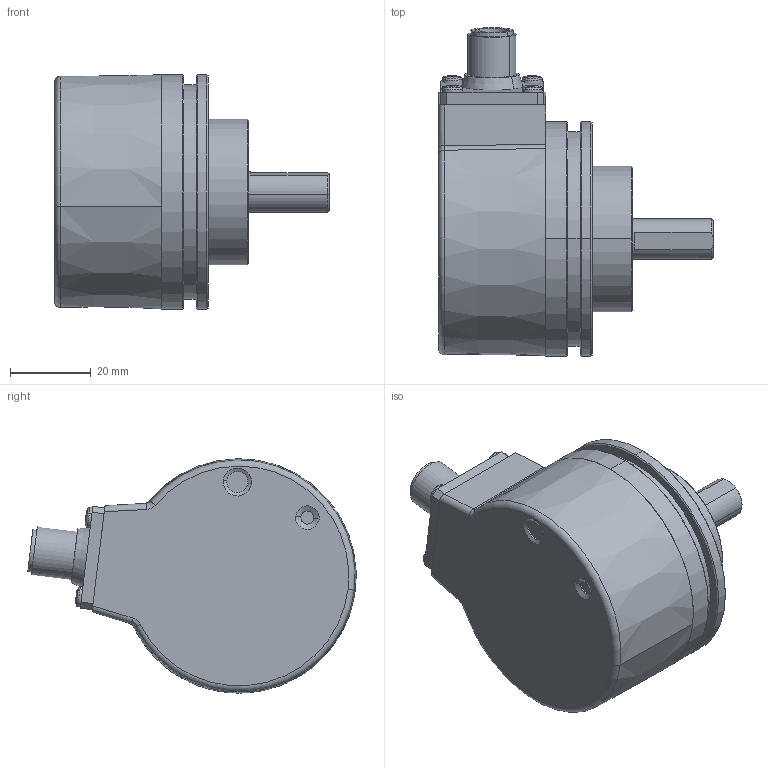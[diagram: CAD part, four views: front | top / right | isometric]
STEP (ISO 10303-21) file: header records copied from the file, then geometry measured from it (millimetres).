
FILE_DESCRIPTION (( 'STEP AP214' ), '1' );
FILE_NAME ('5814SIL.12X6.XXXX.STEP', '2010-07-22T06:35:29', ( 'admin' ), ( 'Fritz Kübler GmbH' ), 'SwSTEP 2.0', 'SolidWorks 2009', '' );
FILE_SCHEMA (( 'AUTOMOTIVE_DESIGN' ));
Length unit declared in the file: millimetre
Products named in the file (1): 5814SIL.12X6.XXXX
Bounding box: 68 x 81.25 x 58 mm (x, y, z)
Surface area: 19445.7 mm2 (no closed solid volume)
Topology: 0 solids, 17 shells, 222 faces, 583 edges, 370 vertices
Faces by surface type: plane 78, cylinder 63, cone 35, sphere 24, torus 18, bspline 4
Entity records: 9522 total; most frequent: CARTESIAN_POINT 1610, DIRECTION 1275, ORIENTED_EDGE 996, EDGE_CURVE 551, AXIS2_PLACEMENT_3D 521, VERTEX_POINT 354, CIRCLE 302, EDGE_LOOP 253
